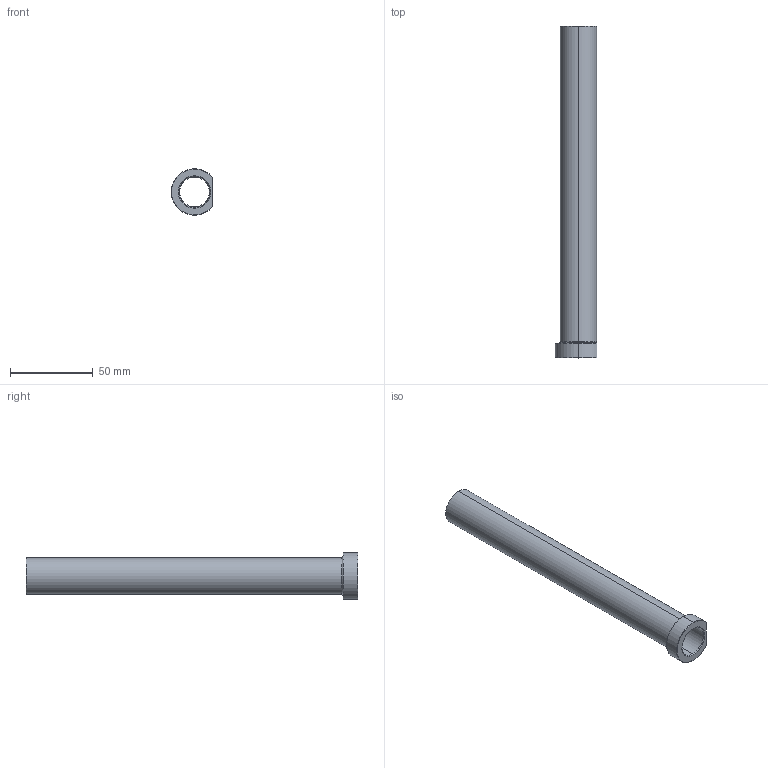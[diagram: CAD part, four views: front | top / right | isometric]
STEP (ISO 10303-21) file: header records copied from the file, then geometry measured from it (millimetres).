
FILE_DESCRIPTION (( 'STEP AP203' ), '1' );
FILE_NAME ('ESD18L200-K.step', '2022-02-05T19:10:36', ( 'Microsoft Corporation' ), ( 'MS' ), 'SwSTEP 2.0', 'SolidWorks 2019', '' );
FILE_SCHEMA (( 'CONFIG_CONTROL_DESIGN' ));
Length unit declared in the file: millimetre
Products named in the file (1): ESD18L200-K
Bounding box: 25 x 200 x 28 mm (x, y, z)
Volume: 24941.2 mm3; surface area: 26091 mm2
Topology: 1 solids, 1 shells, 26 faces, 59 edges, 35 vertices
Faces by surface type: cone 10, cylinder 9, plane 4, torus 3
Entity records: 828 total; most frequent: CARTESIAN_POINT 149, DIRECTION 139, ORIENTED_EDGE 118, EDGE_CURVE 59, AXIS2_PLACEMENT_3D 59, VERTEX_POINT 35, CIRCLE 32, EDGE_LOOP 28
